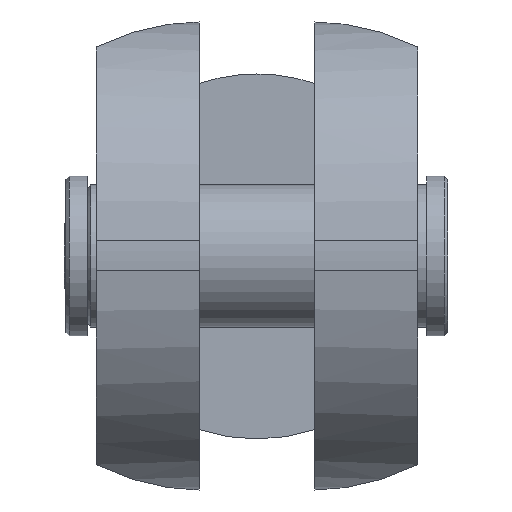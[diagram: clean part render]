
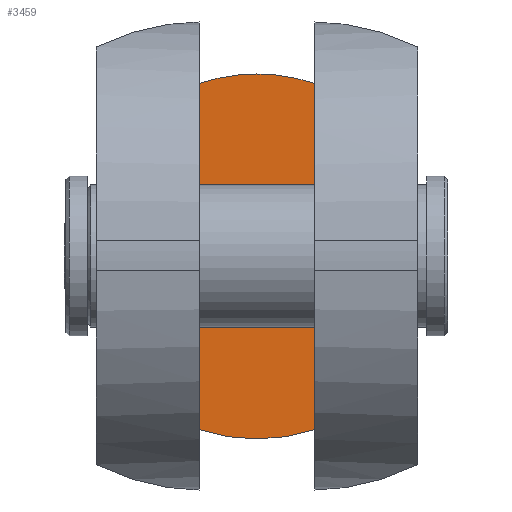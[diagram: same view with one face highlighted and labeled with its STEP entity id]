
A CAD part, top view. The second image highlights one B-rep face of the part: STEP entity #3459.
In plain terms, the highlighted planar face has unit normal (0, 0, 1).
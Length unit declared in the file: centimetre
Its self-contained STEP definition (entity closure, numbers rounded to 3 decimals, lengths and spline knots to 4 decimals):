
#152=PLANE('',#3649);
#503=LINE('',#5621,#851);
#504=LINE('',#5623,#852);
#851=VECTOR('',#4343,19.4894);
#852=VECTOR('',#4346,19.4894);
#1138=FACE_OUTER_BOUND('',#1344,.T.);
#1344=EDGE_LOOP('',(#3012,#3013,#3014,#3015));
#1406=CIRCLE('',#3504,10.2724);
#1407=CIRCLE('',#3505,10.2724);
#1453=VERTEX_POINT('',#4500);
#1454=VERTEX_POINT('',#4504);
#1459=VERTEX_POINT('',#4536);
#1460=VERTEX_POINT('',#4540);
#1763=EDGE_CURVE('',#1453,#1454,#1406,.T.);
#1769=EDGE_CURVE('',#1459,#1460,#1407,.T.);
#2164=EDGE_CURVE('',#1460,#1453,#503,.T.);
#2165=EDGE_CURVE('',#1459,#1454,#504,.T.);
#3012=ORIENTED_EDGE('',*,*,#1769,.F.);
#3013=ORIENTED_EDGE('',*,*,#2165,.T.);
#3014=ORIENTED_EDGE('',*,*,#1763,.F.);
#3015=ORIENTED_EDGE('',*,*,#2164,.F.);
#3459=ADVANCED_FACE('',(#1138),#152,.F.);
#3504=AXIS2_PLACEMENT_3D('',#4505,#3719,#3720);
#3505=AXIS2_PLACEMENT_3D('',#4541,#3721,#3722);
#3649=AXIS2_PLACEMENT_3D('',#5622,#4344,#4345);
#3719=DIRECTION('center_axis',(0.,0.,
-1.));
#3720=DIRECTION('ref_axis',(0.,1.,0.));
#3721=DIRECTION('center_axis',(0.,0.,
-1.));
#3722=DIRECTION('ref_axis',(0.,1.,0.));
#4343=DIRECTION('',(0.,-1.,0.));
#4344=DIRECTION('center_axis',(0.,0.,
-1.));
#4345=DIRECTION('ref_axis',(1.,0.,0.));
#4346=DIRECTION('',(0.,-1.,0.));
#4500=CARTESIAN_POINT('',(3.25,-9.7447,-15.5));
#4504=CARTESIAN_POINT('',(-3.25,-9.7447,-15.5));
#4505=CARTESIAN_POINT('Origin',(0.,0.,
-15.5));
#4536=CARTESIAN_POINT('',(-3.25,9.7447,-15.5));
#4540=CARTESIAN_POINT('',(3.25,9.7447,-15.5));
#4541=CARTESIAN_POINT('Origin',(0.,0.,
-15.5));
#5621=CARTESIAN_POINT('',(3.25,0.,-15.5));
#5622=CARTESIAN_POINT('Origin',(-3.25,0.,
-15.5));
#5623=CARTESIAN_POINT('',(-3.25,0.,-15.5));
